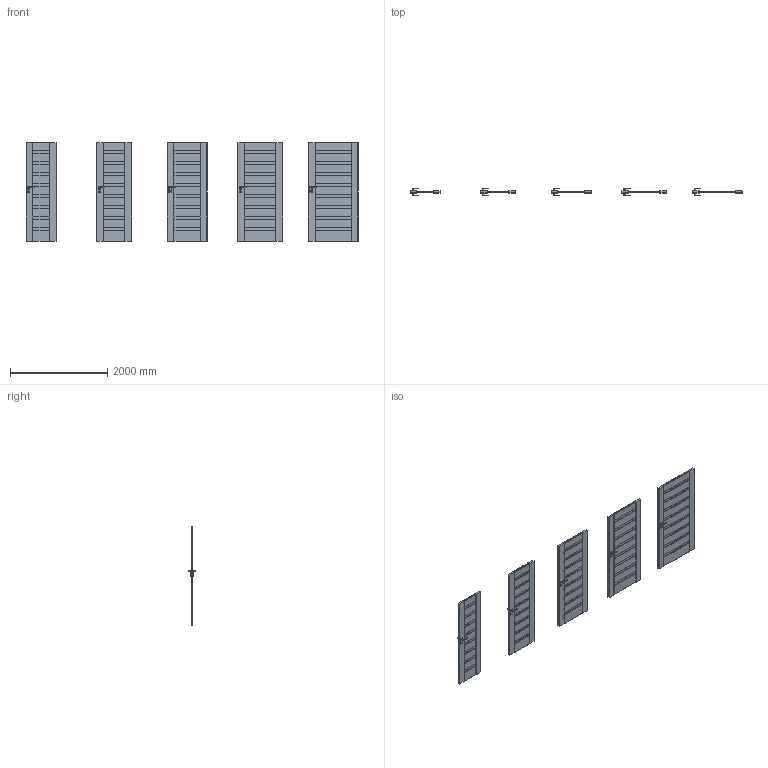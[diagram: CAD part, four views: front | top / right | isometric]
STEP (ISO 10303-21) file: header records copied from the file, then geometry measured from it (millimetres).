
FILE_DESCRIPTION(/* description */ (''),/* implementation_level */ '2;1');
FILE_NAME(/* name */ '049816_A_2-Skrzydło Verte Premium model D polska norma _PN__ bezprzylgowe..stp',/* time_stamp */ '2024-08-26T12:58:23+02:00',/* author */ (''),/* organization */ (''),/* preprocessor_version */ 'ST-DEVELOPER v16',/* originating_system */ 'SIEMENS PLM Software NX 11.0',/* authorisation */ '');
FILE_SCHEMA (('AUTOMOTIVE_DESIGN { 1 0 10303 214 3 1 1 1 }'));
Products named in the file (1): bkni4FE006DBtgqm
Bounding box: 6818 x 153.13 x 2017.01 mm (x, y, z)
Volume: 268088950.4 mm3; surface area: 19582118.3 mm2
Topology: 25 solids, 30 shells, 2780 faces, 8305 edges, 5290 vertices
Faces by surface type: plane 1820, cylinder 660, bspline 160, sphere 140
Entity records: 98659 total; most frequent: CARTESIAN_POINT 23502, ORIENTED_EDGE 16330, DIRECTION 15047, EDGE_CURVE 8165, LINE 5885, VECTOR 5885, VERTEX_POINT 5290, AXIS2_PLACEMENT_3D 4581
